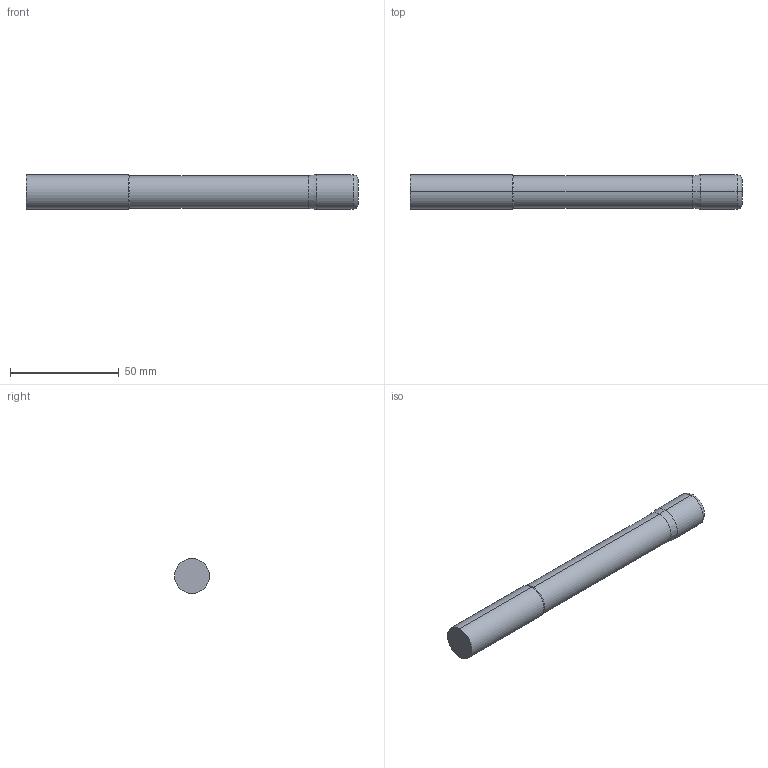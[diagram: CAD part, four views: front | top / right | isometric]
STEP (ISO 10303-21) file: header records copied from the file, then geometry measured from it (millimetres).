
FILE_DESCRIPTION (( 'STEP AP214' ), '1' );
FILE_NAME ('SSIRNX70625-090.STEP', '2025-05-30T15:08:50', ( '' ), ( '' ), 'SwSTEP 2.0', 'SolidWorks 2023', '' );
FILE_SCHEMA (( 'AUTOMOTIVE_DESIGN' ));
Length unit declared in the file: inch
Products named in the file (3): SSI7 Shank Only_SSIRNX70625-090; SSI7 Cut Only_SSIRNX70625-090; SSIRNX70625-090
Assembly tree (2 placements, depth 2):
  SSIRNX70625-090
    SSI7 Cut Only_SSIRNX70625-090
    SSI7 Shank Only_SSIRNX70625-090
Bounding box: 152.4 x 15.88 x 15.88 mm (x, y, z)
Volume: 28295.7 mm3; surface area: 8112.7 mm2
Topology: 2 solids, 2 shells, 16 faces, 28 edges, 16 vertices
Faces by surface type: cylinder 6, plane 4, cone 4, torus 2
Entity records: 484 total; most frequent: DIRECTION 88, CARTESIAN_POINT 65, ORIENTED_EDGE 56, AXIS2_PLACEMENT_3D 39, EDGE_CURVE 28, CIRCLE 18, VERTEX_POINT 16, EDGE_LOOP 16
